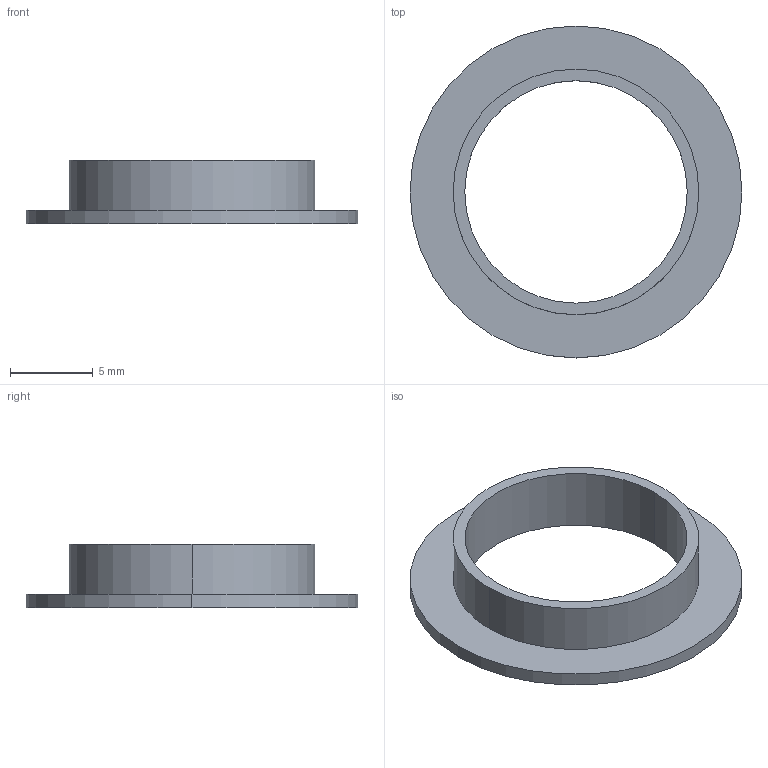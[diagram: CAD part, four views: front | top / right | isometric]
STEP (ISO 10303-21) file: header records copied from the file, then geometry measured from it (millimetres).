
FILE_DESCRIPTION (( 'STEP AP203' ), '1' );
FILE_NAME ('bearing.STEP', '2019-07-18T16:10:35', ( '' ), ( '' ), 'SwSTEP 2.0', 'SolidWorks 2017', '' );
FILE_SCHEMA (( 'CONFIG_CONTROL_DESIGN' ));
Length unit declared in the file: millimetre
Products named in the file (1): bearing
Bounding box: 20 x 20 x 3.8 mm (x, y, z)
Volume: 231.5 mm3; surface area: 696 mm2
Topology: 1 solids, 1 shells, 9 faces, 18 edges, 12 vertices
Faces by surface type: cylinder 6, plane 3
Entity records: 325 total; most frequent: DIRECTION 50, CARTESIAN_POINT 40, ORIENTED_EDGE 36, AXIS2_PLACEMENT_3D 22, EDGE_CURVE 18, EDGE_LOOP 12, CIRCLE 12, VERTEX_POINT 12
